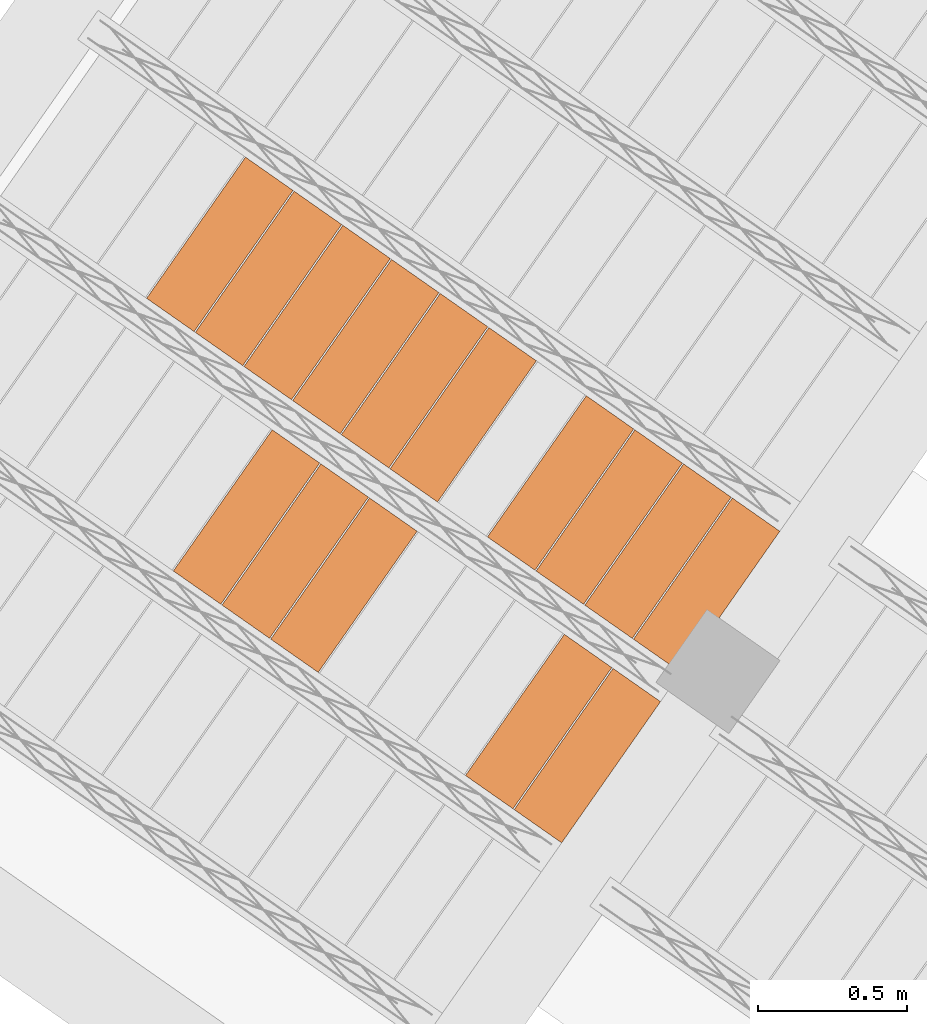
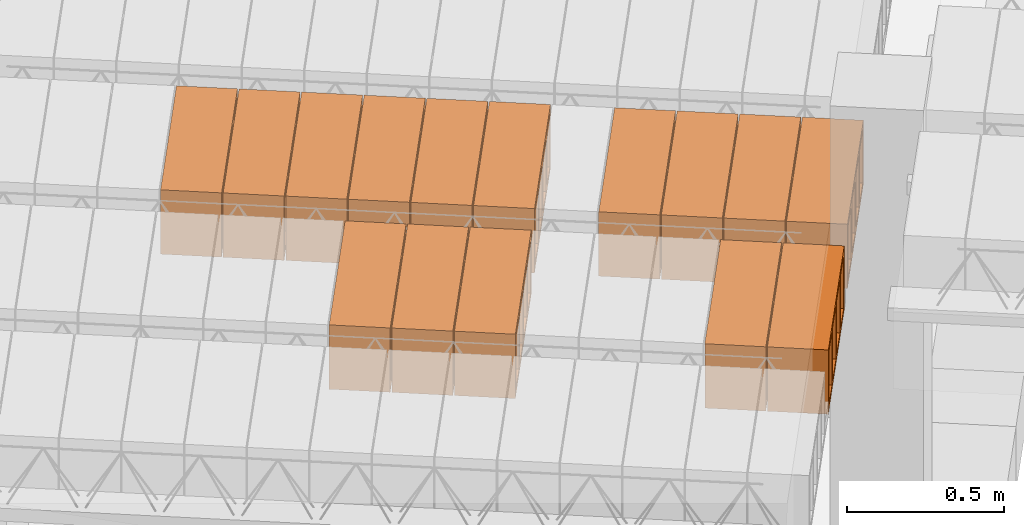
# One storey, part 58 of 80: 15 proxies.
"""IFC2X3 building model written with IfcOpenShell, lengths in metres."""

from ifc_helpers import new_model, entity, si_unit, converted_unit, derived_unit, direction, frame, origin, place, context, subcontext, project, spatial, polyline, outline, extrude, type_object, element, save


model = new_model("IFC2X3")

# Units and contexts
model_context = context("Model", 3, precision=1e-05, world=origin(), true_north=direction((6.123031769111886e-17, 1.0)))
body_context = subcontext(model_context, "Body", "Model", "MODEL_VIEW")
ifc_project = project(units=[si_unit("LENGTHUNIT", "METRE"), si_unit("AREAUNIT", "SQUARE_METRE"), si_unit("VOLUMEUNIT", "CUBIC_METRE"), converted_unit("PLANEANGLEUNIT", "DEGREE", entity("IfcPlaneAngleMeasure", 0.017453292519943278), si_unit("PLANEANGLEUNIT", "RADIAN"), dimensions=[0, 0, 0, 0, 0, 0, 0]), si_unit("MASSUNIT", "GRAM", prefix="KILO"), derived_unit("MASSDENSITYUNIT", [(si_unit("MASSUNIT", "GRAM", prefix="KILO"), 1), (si_unit("LENGTHUNIT", "METRE"), -3)]), derived_unit("IONCONCENTRATIONUNIT", [(si_unit("MASSUNIT", "GRAM", prefix="KILO"), 1), (si_unit("LENGTHUNIT", "METRE"), -3)]), derived_unit("MOMENTOFINERTIAUNIT", [(si_unit("LENGTHUNIT", "METRE"), 4)]), si_unit("TIMEUNIT", "SECOND"), si_unit("FREQUENCYUNIT", "HERTZ"), si_unit("THERMODYNAMICTEMPERATUREUNIT", "DEGREE_CELSIUS"), derived_unit("THERMALTRANSMITTANCEUNIT", [(si_unit("MASSUNIT", "GRAM", prefix="KILO"), 1), (si_unit("THERMODYNAMICTEMPERATUREUNIT", "KELVIN"), -1), (si_unit("TIMEUNIT", "SECOND"), -3)]), derived_unit("THERMALCONDUCTANCEUNIT", [(si_unit("MASSUNIT", "GRAM", prefix="KILO"), 1), (si_unit("THERMODYNAMICTEMPERATUREUNIT", "KELVIN"), -1), (si_unit("TIMEUNIT", "SECOND"), -3), (si_unit("LENGTHUNIT", "METRE"), 1)]), derived_unit("VOLUMETRICFLOWRATEUNIT", [(si_unit("LENGTHUNIT", "METRE", prefix="DECI"), 3), (si_unit("TIMEUNIT", "SECOND"), -1)]), derived_unit("MASSFLOWRATEUNIT", [(si_unit("MASSUNIT", "GRAM", prefix="KILO"), 1), (si_unit("TIMEUNIT", "SECOND"), -1)]), derived_unit("ROTATIONALFREQUENCYUNIT", [(si_unit("TIMEUNIT", "SECOND"), -1)]), si_unit("ELECTRICCURRENTUNIT", "AMPERE"), si_unit("ELECTRICVOLTAGEUNIT", "VOLT"), si_unit("POWERUNIT", "WATT"), si_unit("FORCEUNIT", "NEWTON", prefix="KILO"), si_unit("ILLUMINANCEUNIT", "LUX"), si_unit("LUMINOUSFLUXUNIT", "LUMEN"), si_unit("LUMINOUSINTENSITYUNIT", "CANDELA"), si_unit("ENERGYUNIT", "JOULE"), derived_unit("USERDEFINED", [(si_unit("MASSUNIT", "GRAM", prefix="KILO"), -1), (si_unit("LENGTHUNIT", "METRE"), -2), (si_unit("TIMEUNIT", "SECOND"), 3), (si_unit("LUMINOUSFLUXUNIT", "LUMEN"), 1)]), derived_unit("USERDEFINED", [(si_unit("MASSUNIT", "GRAM", prefix="KILO"), 1), (si_unit("TIMEUNIT", "SECOND"), -3), (si_unit("LENGTHUNIT", "METRE"), 3), (si_unit("ELECTRICCURRENTUNIT", "AMPERE"), -2)]), derived_unit("SOUNDPOWERUNIT", [(si_unit("MASSUNIT", "GRAM", prefix="KILO"), 1), (si_unit("TIMEUNIT", "SECOND"), -3), (si_unit("LENGTHUNIT", "METRE"), 2)]), derived_unit("SOUNDPRESSUREUNIT", [(si_unit("MASSUNIT", "GRAM", prefix="KILO"), 1), (si_unit("LENGTHUNIT", "METRE"), -1), (si_unit("TIMEUNIT", "SECOND"), -2)]), derived_unit("LINEARVELOCITYUNIT", [(si_unit("LENGTHUNIT", "METRE"), 1), (si_unit("TIMEUNIT", "SECOND"), -1)]), si_unit("PRESSUREUNIT", "PASCAL"), derived_unit("USERDEFINED", [(si_unit("MASSUNIT", "GRAM", prefix="KILO"), 1), (si_unit("LENGTHUNIT", "METRE"), -2), (si_unit("TIMEUNIT", "SECOND"), -2)]), derived_unit("LINEARFORCEUNIT", [(si_unit("MASSUNIT", "GRAM", prefix="KILO"), 1), (si_unit("TIMEUNIT", "SECOND"), -2)]), derived_unit("PLANARFORCEUNIT", [(si_unit("MASSUNIT", "GRAM", prefix="KILO"), 1), (si_unit("LENGTHUNIT", "METRE"), -1), (si_unit("TIMEUNIT", "SECOND"), -2)]), derived_unit("SPECIFICHEATCAPACITYUNIT", [(si_unit("THERMODYNAMICTEMPERATUREUNIT", "KELVIN"), -1), (si_unit("LENGTHUNIT", "METRE"), 2), (si_unit("TIMEUNIT", "SECOND"), -2)]), derived_unit("HEATFLUXDENSITYUNIT", [(si_unit("MASSUNIT", "GRAM", prefix="KILO"), 1), (si_unit("TIMEUNIT", "SECOND"), -3)]), derived_unit("HEATINGVALUEUNIT", [(si_unit("LENGTHUNIT", "METRE"), 2), (si_unit("TIMEUNIT", "SECOND"), -2)]), derived_unit("VAPORPERMEABILITYUNIT", [(si_unit("LENGTHUNIT", "METRE"), -1), (si_unit("TIMEUNIT", "SECOND"), 1)]), derived_unit("DYNAMICVISCOSITYUNIT", [(si_unit("MASSUNIT", "GRAM", prefix="KILO"), 1), (si_unit("TIMEUNIT", "SECOND"), -1), (si_unit("LENGTHUNIT", "METRE"), -1)]), derived_unit("THERMALEXPANSIONCOEFFICIENTUNIT", [(si_unit("THERMODYNAMICTEMPERATUREUNIT", "KELVIN"), -1)]), derived_unit("MODULUSOFELASTICITYUNIT", [(si_unit("MASSUNIT", "GRAM", prefix="KILO"), 1), (si_unit("LENGTHUNIT", "METRE"), -1), (si_unit("TIMEUNIT", "SECOND"), -2)]), derived_unit("ISOTHERMALMOISTURECAPACITYUNIT", [(si_unit("MASSUNIT", "GRAM", prefix="KILO"), -1), (si_unit("LENGTHUNIT", "METRE"), 3)]), derived_unit("MOISTUREDIFFUSIVITYUNIT", [(si_unit("TIMEUNIT", "SECOND"), -1), (si_unit("LENGTHUNIT", "METRE"), 2)]), derived_unit("MASSPERLENGTHUNIT", [(si_unit("MASSUNIT", "GRAM", prefix="KILO"), 1), (si_unit("LENGTHUNIT", "METRE"), -1)]), derived_unit("THERMALRESISTANCEUNIT", [(si_unit("MASSUNIT", "GRAM", prefix="KILO"), -1), (si_unit("TIMEUNIT", "SECOND"), 3), (si_unit("THERMODYNAMICTEMPERATUREUNIT", "KELVIN"), 1)]), derived_unit("ACCELERATIONUNIT", [(si_unit("LENGTHUNIT", "METRE"), 1), (si_unit("TIMEUNIT", "SECOND"), -2)]), derived_unit("ANGULARVELOCITYUNIT", [(si_unit("TIMEUNIT", "SECOND"), -1), (si_unit("PLANEANGLEUNIT", "RADIAN"), 1)]), derived_unit("LINEARSTIFFNESSUNIT", [(si_unit("MASSUNIT", "GRAM", prefix="KILO"), 1), (si_unit("TIMEUNIT", "SECOND"), -2)]), derived_unit("WARPINGCONSTANTUNIT", [(si_unit("LENGTHUNIT", "METRE"), 6)]), derived_unit("LINEARMOMENTUNIT", [(si_unit("MASSUNIT", "GRAM", prefix="KILO"), 1), (si_unit("LENGTHUNIT", "METRE"), 1), (si_unit("TIMEUNIT", "SECOND"), -2)]), derived_unit("TORQUEUNIT", [(si_unit("MASSUNIT", "GRAM", prefix="KILO"), 1), (si_unit("LENGTHUNIT", "METRE"), 2), (si_unit("TIMEUNIT", "SECOND"), -2)])], contexts=[model_context])

# Site, building, storey
site_placement = place(None, origin())
site = spatial("IfcSite", under=ifc_project, at=site_placement, Name="Default", CompositionType="ELEMENT")
building_placement = place(site_placement, origin())
building = spatial("IfcBuilding", under=site, at=building_placement, CompositionType="ELEMENT")
storey_placement = place(building_placement, frame((0.0, 0.0, 95.94)))
storey = spatial("IfcBuildingStorey", under=building, at=storey_placement, Name="PB", CompositionType="ELEMENT", Elevation=95.94)

# Proxies
building_element_proxy_type_1 = type_object("IfcBuildingElementProxyType", Name="Bovedilla 2-1 (Paño 2)", PredefinedType="USERDEFINED")
proxy_1_placement = place(storey_placement, origin())
element("IfcBuildingElementProxy", 1, at=proxy_1_placement, inside=storey, type_object=building_element_proxy_type_1, Name="Bovedilla 2-1 (Paño 2)", ObjectType="FORM", context=body_context, shape_type="SweptSolid", body=[
    extrude(outline(polyline([(-0.29, -0.12500000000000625), (0.29, -0.12500000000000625), (0.29, 0.12500000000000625), (-0.29, 0.12500000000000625), (-0.29, -0.12500000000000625)]), holes=[polyline([(0.27, -0.10499999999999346), (0.15499999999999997, -0.10499999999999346), (0.15499999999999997, 0.10499999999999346), (0.27, 0.10499999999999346), (0.27, 0.042499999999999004), (0.27, -0.10499999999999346)]), polyline([(0.009999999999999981, -0.10499999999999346), (0.009999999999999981, 0.10499999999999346), (0.13500000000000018, 0.10499999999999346), (0.13500000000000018, -0.10499999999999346), (0.009999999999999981, -0.10499999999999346)]), polyline([(-0.13500000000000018, 0.10499999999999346), (-0.009999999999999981, 0.10499999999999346), (-0.009999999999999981, -0.10499999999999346), (-0.13500000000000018, -0.10499999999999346), (-0.13500000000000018, 0.10499999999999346)]), polyline([(-0.27, -0.10499999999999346), (-0.27, 0.042499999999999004), (-0.27, 0.10499999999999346), (-0.15499999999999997, 0.10499999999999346), (-0.15499999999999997, -0.10499999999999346), (-0.27, -0.10499999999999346)])]), frame((1.625330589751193, 2.036289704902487, 2.945000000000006), z_axis=(0.819152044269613, -0.5735764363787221, 0.0), x_axis=(-0.5735764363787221, -0.819152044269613, 0.0)), (0.0, 0.0, 1.0), 0.19499999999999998),
])
building_element_proxy_type_2 = type_object("IfcBuildingElementProxyType", Name="Bovedilla 2-2 (Paño 2)", PredefinedType="USERDEFINED")
proxy_2_placement = place(storey_placement, origin())
element("IfcBuildingElementProxy", 2, at=proxy_2_placement, inside=storey, type_object=building_element_proxy_type_2, Name="Bovedilla 2-2 (Paño 2)", ObjectType="FORM", context=body_context, shape_type="SweptSolid", body=[
    extrude(outline(polyline([(-0.29, -0.12500000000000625), (0.29, -0.12500000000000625), (0.29, 0.12500000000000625), (-0.29, 0.12500000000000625), (-0.29, -0.12500000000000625)]), holes=[polyline([(0.27, -0.10499999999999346), (0.15499999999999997, -0.10499999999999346), (0.15499999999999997, 0.10499999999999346), (0.27, 0.10499999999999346), (0.27, 0.042499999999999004), (0.27, -0.10499999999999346)]), polyline([(0.009999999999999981, -0.10499999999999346), (0.009999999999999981, 0.10499999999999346), (0.13500000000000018, 0.10499999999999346), (0.13500000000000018, -0.10499999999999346), (0.009999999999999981, -0.10499999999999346)]), polyline([(-0.13500000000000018, 0.10499999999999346), (-0.009999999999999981, 0.10499999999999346), (-0.009999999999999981, -0.10499999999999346), (-0.13500000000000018, -0.10499999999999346), (-0.13500000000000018, 0.10499999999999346)]), polyline([(-0.27, -0.10499999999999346), (-0.27, 0.042499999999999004), (-0.27, 0.10499999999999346), (-0.15499999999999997, 0.10499999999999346), (-0.15499999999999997, -0.10499999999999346), (-0.27, -0.10499999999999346)])]), frame((1.4615001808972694, 2.1510049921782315, 2.945000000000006), z_axis=(0.819152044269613, -0.5735764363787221, 0.0), x_axis=(-0.5735764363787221, -0.819152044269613, 0.0)), (0.0, 0.0, 1.0), 0.19499999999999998),
])
building_element_proxy_type_3 = type_object("IfcBuildingElementProxyType", Name="Bovedilla 2-6 (Paño 2)", PredefinedType="USERDEFINED")
proxy_3_placement = place(storey_placement, origin())
element("IfcBuildingElementProxy", 3, at=proxy_3_placement, inside=storey, type_object=building_element_proxy_type_3, Name="Bovedilla 2-6 (Paño 2)", ObjectType="FORM", context=body_context, shape_type="SweptSolid", body=[
    extrude(outline(polyline([(-0.29000000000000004, -0.12500000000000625), (0.29000000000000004, -0.12500000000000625), (0.29000000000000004, 0.12500000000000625), (-0.29000000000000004, 0.12500000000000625), (-0.29000000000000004, -0.12500000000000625)]), holes=[polyline([(0.27000000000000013, -0.10499999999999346), (0.15500000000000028, -0.10499999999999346), (0.15500000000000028, 0.10499999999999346), (0.27000000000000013, 0.10499999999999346), (0.27000000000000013, 0.042499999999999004), (0.27000000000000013, -0.10499999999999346)]), polyline([(0.00999999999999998, -0.10499999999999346), (0.00999999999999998, 0.10499999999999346), (0.1349999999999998, 0.10499999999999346), (0.1349999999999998, -0.10499999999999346), (0.00999999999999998, -0.10499999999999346)]), polyline([(-0.1349999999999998, 0.10499999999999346), (-0.00999999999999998, 0.10499999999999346), (-0.00999999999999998, -0.10499999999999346), (-0.1349999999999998, -0.10499999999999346), (-0.1349999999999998, 0.10499999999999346)]), polyline([(-0.27000000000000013, -0.10499999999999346), (-0.27000000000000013, 0.042499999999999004), (-0.27000000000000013, 0.10499999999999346), (-0.15500000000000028, 0.10499999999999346), (-0.15500000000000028, -0.10499999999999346), (-0.27000000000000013, -0.10499999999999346)])]), frame((0.806178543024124, 2.609866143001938, 2.945000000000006), z_axis=(0.8191520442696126, -0.5735764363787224, 0.0), x_axis=(-0.5735764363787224, -0.8191520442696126, 0.0)), (0.0, 0.0, 1.0), 0.19500000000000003),
])
building_element_proxy_type_4 = type_object("IfcBuildingElementProxyType", Name="Bovedilla 2-7 (Paño 2)", PredefinedType="USERDEFINED")
proxy_4_placement = place(storey_placement, origin())
element("IfcBuildingElementProxy", 4, at=proxy_4_placement, inside=storey, type_object=building_element_proxy_type_4, Name="Bovedilla 2-7 (Paño 2)", ObjectType="FORM", context=body_context, shape_type="SweptSolid", body=[
    extrude(outline(polyline([(-0.29000000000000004, -0.12500000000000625), (0.29000000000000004, -0.12500000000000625), (0.29000000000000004, 0.12500000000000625), (-0.29000000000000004, 0.12500000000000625), (-0.29000000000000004, -0.12500000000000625)]), holes=[polyline([(0.27000000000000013, -0.10499999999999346), (0.15500000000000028, -0.10499999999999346), (0.15500000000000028, 0.10499999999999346), (0.27000000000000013, 0.10499999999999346), (0.27000000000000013, 0.042499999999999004), (0.27000000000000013, -0.10499999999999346)]), polyline([(0.00999999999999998, -0.10499999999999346), (0.00999999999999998, 0.10499999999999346), (0.1349999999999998, 0.10499999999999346), (0.1349999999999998, -0.10499999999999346), (0.00999999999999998, -0.10499999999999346)]), polyline([(-0.1349999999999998, 0.10499999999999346), (-0.00999999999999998, 0.10499999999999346), (-0.00999999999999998, -0.10499999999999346), (-0.1349999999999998, -0.10499999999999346), (-0.1349999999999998, 0.10499999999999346)]), polyline([(-0.27000000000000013, -0.10499999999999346), (-0.27000000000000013, 0.042499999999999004), (-0.27000000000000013, 0.10499999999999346), (-0.15500000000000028, 0.10499999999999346), (-0.15500000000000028, -0.10499999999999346), (-0.27000000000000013, -0.10499999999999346)])]), frame((0.6423481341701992, 2.7245814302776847, 2.945000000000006), z_axis=(0.8191520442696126, -0.5735764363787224, 0.0), x_axis=(-0.5735764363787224, -0.8191520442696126, 0.0)), (0.0, 0.0, 1.0), 0.19500000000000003),
])
building_element_proxy_type_5 = type_object("IfcBuildingElementProxyType", Name="Bovedilla 2-8 (Paño 2)", PredefinedType="USERDEFINED")
proxy_5_placement = place(storey_placement, origin())
element("IfcBuildingElementProxy", 5, at=proxy_5_placement, inside=storey, type_object=building_element_proxy_type_5, Name="Bovedilla 2-8 (Paño 2)", ObjectType="FORM", context=body_context, shape_type="SweptSolid", body=[
    extrude(outline(polyline([(-0.29000000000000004, -0.12500000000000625), (0.29000000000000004, -0.12500000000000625), (0.29000000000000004, 0.12500000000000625), (-0.29000000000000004, 0.12500000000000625), (-0.29000000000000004, -0.12500000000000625)]), holes=[polyline([(0.27000000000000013, -0.10499999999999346), (0.15500000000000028, -0.10499999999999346), (0.15500000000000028, 0.10499999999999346), (0.27000000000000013, 0.10499999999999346), (0.27000000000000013, 0.042499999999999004), (0.27000000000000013, -0.10499999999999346)]), polyline([(0.009999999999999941, -0.10499999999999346), (0.009999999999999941, 0.10499999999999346), (0.1349999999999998, 0.10499999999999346), (0.1349999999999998, -0.10499999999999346), (0.009999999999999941, -0.10499999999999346)]), polyline([(-0.1349999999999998, 0.10499999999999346), (-0.009999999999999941, 0.10499999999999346), (-0.009999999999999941, -0.10499999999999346), (-0.1349999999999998, -0.10499999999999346), (-0.1349999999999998, 0.10499999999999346)]), polyline([(-0.27000000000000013, -0.10499999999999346), (-0.27000000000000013, 0.042499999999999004), (-0.27000000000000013, 0.10499999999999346), (-0.15500000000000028, 0.10499999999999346), (-0.15500000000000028, -0.10499999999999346), (-0.27000000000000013, -0.10499999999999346)])]), frame((0.47851772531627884, 2.8392967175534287, 2.945000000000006), z_axis=(0.8191520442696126, -0.5735764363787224, 0.0), x_axis=(-0.5735764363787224, -0.8191520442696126, 0.0)), (0.0, 0.0, 1.0), 0.19500000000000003),
])
building_element_proxy_type_6 = type_object("IfcBuildingElementProxyType", Name="Bovedilla 3-1 (Paño 2)", PredefinedType="USERDEFINED")
proxy_6_placement = place(storey_placement, origin())
element("IfcBuildingElementProxy", 6, at=proxy_6_placement, inside=storey, type_object=building_element_proxy_type_6, Name="Bovedilla 3-1 (Paño 2)", ObjectType="FORM", context=body_context, shape_type="SweptSolid", body=[
    extrude(outline(polyline([(-0.29, -0.12500000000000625), (0.29, -0.12500000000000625), (0.29, 0.12500000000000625), (-0.29, 0.12500000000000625), (-0.29, -0.12500000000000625)]), holes=[polyline([(0.2700000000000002, -0.10499999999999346), (0.1550000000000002, -0.10499999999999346), (0.1550000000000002, 0.10499999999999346), (0.2700000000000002, 0.10499999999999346), (0.2700000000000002, 0.042499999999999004), (0.2700000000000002, -0.10499999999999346)]), polyline([(0.009999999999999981, -0.10499999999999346), (0.009999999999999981, 0.10499999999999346), (0.13499999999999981, 0.10499999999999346), (0.13499999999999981, -0.10499999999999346), (0.009999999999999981, -0.10499999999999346)]), polyline([(-0.13499999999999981, 0.10499999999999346), (-0.009999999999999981, 0.10499999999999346), (-0.009999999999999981, -0.10499999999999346), (-0.13499999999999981, -0.10499999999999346), (-0.13499999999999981, 0.10499999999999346)]), polyline([(-0.2700000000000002, -0.10499999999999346), (-0.2700000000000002, 0.042499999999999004), (-0.2700000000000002, 0.10499999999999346), (-0.1550000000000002, 0.10499999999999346), (-0.1550000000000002, -0.10499999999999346), (-0.2700000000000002, -0.10499999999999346)])]), frame((2.0268340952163, 2.609696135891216, 2.945000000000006), z_axis=(0.819152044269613, -0.5735764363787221, 0.0), x_axis=(-0.5735764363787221, -0.819152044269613, 0.0)), (0.0, 0.0, 1.0), 0.19499999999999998),
])
building_element_proxy_type_7 = type_object("IfcBuildingElementProxyType", Name="Bovedilla 3-2 (Paño 2)", PredefinedType="USERDEFINED")
proxy_7_placement = place(storey_placement, origin())
element("IfcBuildingElementProxy", 7, at=proxy_7_placement, inside=storey, type_object=building_element_proxy_type_7, Name="Bovedilla 3-2 (Paño 2)", ObjectType="FORM", context=body_context, shape_type="SweptSolid", body=[
    extrude(outline(polyline([(-0.29, -0.12500000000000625), (0.29, -0.12500000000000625), (0.29, 0.12500000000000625), (-0.29, 0.12500000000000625), (-0.29, -0.12500000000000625)]), holes=[polyline([(0.2700000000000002, -0.10499999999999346), (0.1550000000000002, -0.10499999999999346), (0.1550000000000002, 0.10499999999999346), (0.2700000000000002, 0.10499999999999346), (0.2700000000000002, 0.042499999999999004), (0.2700000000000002, -0.10499999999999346)]), polyline([(0.009999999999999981, -0.10499999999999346), (0.009999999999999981, 0.10499999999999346), (0.13499999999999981, 0.10499999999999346), (0.13499999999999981, -0.10499999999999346), (0.009999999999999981, -0.10499999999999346)]), polyline([(-0.13499999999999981, 0.10499999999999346), (-0.009999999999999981, 0.10499999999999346), (-0.009999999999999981, -0.10499999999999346), (-0.13499999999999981, -0.10499999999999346), (-0.13499999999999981, 0.10499999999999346)]), polyline([(-0.2700000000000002, -0.10499999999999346), (-0.2700000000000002, 0.042499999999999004), (-0.2700000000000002, 0.10499999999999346), (-0.1550000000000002, 0.10499999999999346), (-0.1550000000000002, -0.10499999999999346), (-0.2700000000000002, -0.10499999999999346)])]), frame((1.8630036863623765, 2.7244114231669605, 2.945000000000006), z_axis=(0.819152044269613, -0.5735764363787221, 0.0), x_axis=(-0.5735764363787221, -0.819152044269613, 0.0)), (0.0, 0.0, 1.0), 0.19499999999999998),
])
building_element_proxy_type_8 = type_object("IfcBuildingElementProxyType", Name="Bovedilla 3-3 (Paño 2)", PredefinedType="USERDEFINED")
proxy_8_placement = place(storey_placement, origin())
element("IfcBuildingElementProxy", 8, at=proxy_8_placement, inside=storey, type_object=building_element_proxy_type_8, Name="Bovedilla 3-3 (Paño 2)", ObjectType="FORM", context=body_context, shape_type="SweptSolid", body=[
    extrude(outline(polyline([(-0.29, -0.12500000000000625), (0.29, -0.12500000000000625), (0.29, 0.12500000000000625), (-0.29, 0.12500000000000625), (-0.29, -0.12500000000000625)]), holes=[polyline([(0.2700000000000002, -0.10499999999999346), (0.1550000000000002, -0.10499999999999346), (0.1550000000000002, 0.10499999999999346), (0.2700000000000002, 0.10499999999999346), (0.2700000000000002, 0.042499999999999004), (0.2700000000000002, -0.10499999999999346)]), polyline([(0.009999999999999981, -0.10499999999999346), (0.009999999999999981, 0.10499999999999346), (0.13499999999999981, 0.10499999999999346), (0.13499999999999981, -0.10499999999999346), (0.009999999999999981, -0.10499999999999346)]), polyline([(-0.13499999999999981, 0.10499999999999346), (-0.009999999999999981, 0.10499999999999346), (-0.009999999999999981, -0.10499999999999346), (-0.13499999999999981, -0.10499999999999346), (-0.13499999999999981, 0.10499999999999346)]), polyline([(-0.2700000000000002, -0.10499999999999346), (-0.2700000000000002, 0.042499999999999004), (-0.2700000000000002, 0.10499999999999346), (-0.1550000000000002, 0.10499999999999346), (-0.1550000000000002, -0.10499999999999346), (-0.2700000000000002, -0.10499999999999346)])]), frame((1.6991732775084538, 2.839126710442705, 2.945000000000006), z_axis=(0.819152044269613, -0.5735764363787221, 0.0), x_axis=(-0.5735764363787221, -0.819152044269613, 0.0)), (0.0, 0.0, 1.0), 0.19499999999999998),
])
building_element_proxy_type_9 = type_object("IfcBuildingElementProxyType", Name="Bovedilla 3-4 (Paño 2)", PredefinedType="USERDEFINED")
proxy_9_placement = place(storey_placement, origin())
element("IfcBuildingElementProxy", 9, at=proxy_9_placement, inside=storey, type_object=building_element_proxy_type_9, Name="Bovedilla 3-4 (Paño 2)", ObjectType="FORM", context=body_context, shape_type="SweptSolid", body=[
    extrude(outline(polyline([(-0.29, -0.12500000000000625), (0.29, -0.12500000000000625), (0.29, 0.12500000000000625), (-0.29, 0.12500000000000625), (-0.29, -0.12500000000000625)]), holes=[polyline([(0.2700000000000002, -0.10499999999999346), (0.1550000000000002, -0.10499999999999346), (0.1550000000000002, 0.10499999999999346), (0.2700000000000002, 0.10499999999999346), (0.2700000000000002, 0.042499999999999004), (0.2700000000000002, -0.10499999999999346)]), polyline([(0.009999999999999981, -0.10499999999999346), (0.009999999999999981, 0.10499999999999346), (0.13499999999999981, 0.10499999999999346), (0.13499999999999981, -0.10499999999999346), (0.009999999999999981, -0.10499999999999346)]), polyline([(-0.13499999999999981, 0.10499999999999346), (-0.009999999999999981, 0.10499999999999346), (-0.009999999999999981, -0.10499999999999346), (-0.13499999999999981, -0.10499999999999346), (-0.13499999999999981, 0.10499999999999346)]), polyline([(-0.2700000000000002, -0.10499999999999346), (-0.2700000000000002, 0.042499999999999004), (-0.2700000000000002, 0.10499999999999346), (-0.1550000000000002, 0.10499999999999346), (-0.1550000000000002, -0.10499999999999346), (-0.2700000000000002, -0.10499999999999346)])]), frame((1.5353428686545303, 2.953841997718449, 2.945000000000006), z_axis=(0.819152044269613, -0.5735764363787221, 0.0), x_axis=(-0.5735764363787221, -0.819152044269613, 0.0)), (0.0, 0.0, 1.0), 0.19499999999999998),
])
building_element_proxy_type_10 = type_object("IfcBuildingElementProxyType", Name="Bovedilla 3-6 (Paño 2)", PredefinedType="USERDEFINED")
proxy_10_placement = place(storey_placement, origin())
element("IfcBuildingElementProxy", 10, at=proxy_10_placement, inside=storey, type_object=building_element_proxy_type_10, Name="Bovedilla 3-6 (Paño 2)", ObjectType="FORM", context=body_context, shape_type="SweptSolid", body=[
    extrude(outline(polyline([(-0.29, -0.12500000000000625), (0.2900000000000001, -0.12500000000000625), (0.2900000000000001, 0.12500000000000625), (-0.29, 0.12500000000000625), (-0.29, -0.12500000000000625)]), holes=[polyline([(0.2700000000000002, -0.10499999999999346), (0.1550000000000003, -0.10499999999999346), (0.1550000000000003, 0.10499999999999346), (0.2700000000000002, 0.10499999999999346), (0.2700000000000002, 0.042499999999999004), (0.2700000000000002, -0.10499999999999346)]), polyline([(0.009999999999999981, -0.10499999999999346), (0.009999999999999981, 0.10499999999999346), (0.13499999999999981, 0.10499999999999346), (0.13499999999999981, -0.10499999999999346), (0.009999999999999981, -0.10499999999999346)]), polyline([(-0.13499999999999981, 0.10499999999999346), (-0.009999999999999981, 0.10499999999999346), (-0.009999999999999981, -0.10499999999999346), (-0.13499999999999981, -0.10499999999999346), (-0.13499999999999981, 0.10499999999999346)]), polyline([(-0.2700000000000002, -0.10499999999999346), (-0.2700000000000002, 0.042499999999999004), (-0.2700000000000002, 0.10499999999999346), (-0.1550000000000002, 0.10499999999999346), (-0.1550000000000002, -0.10499999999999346), (-0.2700000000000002, -0.10499999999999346)])]), frame((1.207682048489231, 3.1832725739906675, 2.945000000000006), z_axis=(0.8191520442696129, -0.5735764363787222, 0.0), x_axis=(-0.5735764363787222, -0.8191520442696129, 0.0)), (0.0, 0.0, 1.0), 0.19499999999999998),
])
building_element_proxy_type_11 = type_object("IfcBuildingElementProxyType", Name="Bovedilla 3-7 (Paño 2)", PredefinedType="USERDEFINED")
proxy_11_placement = place(storey_placement, origin())
element("IfcBuildingElementProxy", 11, at=proxy_11_placement, inside=storey, type_object=building_element_proxy_type_11, Name="Bovedilla 3-7 (Paño 2)", ObjectType="FORM", context=body_context, shape_type="SweptSolid", body=[
    extrude(outline(polyline([(-0.29000000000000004, -0.12500000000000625), (0.29000000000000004, -0.12500000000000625), (0.29000000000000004, 0.12500000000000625), (-0.29000000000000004, 0.12500000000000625), (-0.29000000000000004, -0.12500000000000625)]), holes=[polyline([(0.27000000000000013, -0.10499999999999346), (0.15500000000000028, -0.10499999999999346), (0.15500000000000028, 0.10499999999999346), (0.27000000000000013, 0.10499999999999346), (0.27000000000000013, 0.042499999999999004), (0.27000000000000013, -0.10499999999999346)]), polyline([(0.00999999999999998, -0.10499999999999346), (0.00999999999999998, 0.10499999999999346), (0.1349999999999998, 0.10499999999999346), (0.1349999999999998, -0.10499999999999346), (0.00999999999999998, -0.10499999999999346)]), polyline([(-0.1349999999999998, 0.10499999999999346), (-0.00999999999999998, 0.10499999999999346), (-0.00999999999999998, -0.10499999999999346), (-0.1349999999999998, -0.10499999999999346), (-0.1349999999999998, 0.10499999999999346)]), polyline([(-0.27000000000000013, -0.10499999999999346), (-0.27000000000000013, 0.042499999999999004), (-0.27000000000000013, 0.10499999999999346), (-0.15500000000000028, 0.10499999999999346), (-0.15500000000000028, -0.10499999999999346), (-0.27000000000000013, -0.10499999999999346)])]), frame((1.0438516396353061, 3.2979878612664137, 2.945000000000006), z_axis=(0.8191520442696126, -0.5735764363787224, 0.0), x_axis=(-0.5735764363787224, -0.8191520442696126, 0.0)), (0.0, 0.0, 1.0), 0.19500000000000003),
])
building_element_proxy_type_12 = type_object("IfcBuildingElementProxyType", Name="Bovedilla 3-8 (Paño 2)", PredefinedType="USERDEFINED")
proxy_12_placement = place(storey_placement, origin())
element("IfcBuildingElementProxy", 12, at=proxy_12_placement, inside=storey, type_object=building_element_proxy_type_12, Name="Bovedilla 3-8 (Paño 2)", ObjectType="FORM", context=body_context, shape_type="SweptSolid", body=[
    extrude(outline(polyline([(-0.29000000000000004, -0.12500000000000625), (0.29000000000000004, -0.12500000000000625), (0.29000000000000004, 0.12500000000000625), (-0.29000000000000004, 0.12500000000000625), (-0.29000000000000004, -0.12500000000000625)]), holes=[polyline([(0.27000000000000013, -0.10499999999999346), (0.15500000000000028, -0.10499999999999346), (0.15500000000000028, 0.10499999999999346), (0.27000000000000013, 0.10499999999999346), (0.27000000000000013, 0.042499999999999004), (0.27000000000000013, -0.10499999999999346)]), polyline([(0.00999999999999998, -0.10499999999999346), (0.00999999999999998, 0.10499999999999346), (0.1349999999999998, 0.10499999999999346), (0.1349999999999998, -0.10499999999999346), (0.00999999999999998, -0.10499999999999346)]), polyline([(-0.1349999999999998, 0.10499999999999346), (-0.00999999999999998, 0.10499999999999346), (-0.00999999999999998, -0.10499999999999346), (-0.1349999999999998, -0.10499999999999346), (-0.1349999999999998, 0.10499999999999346)]), polyline([(-0.27000000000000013, -0.10499999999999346), (-0.27000000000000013, 0.042499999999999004), (-0.27000000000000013, 0.10499999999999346), (-0.15500000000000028, 0.10499999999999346), (-0.15500000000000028, -0.10499999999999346), (-0.27000000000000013, -0.10499999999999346)])]), frame((0.8800212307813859, 3.412703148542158, 2.945000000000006), z_axis=(0.8191520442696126, -0.5735764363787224, 0.0), x_axis=(-0.5735764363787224, -0.8191520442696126, 0.0)), (0.0, 0.0, 1.0), 0.19500000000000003),
])
building_element_proxy_type_13 = type_object("IfcBuildingElementProxyType", Name="Bovedilla 3-9 (Paño 2)", PredefinedType="USERDEFINED")
proxy_13_placement = place(storey_placement, origin())
element("IfcBuildingElementProxy", 13, at=proxy_13_placement, inside=storey, type_object=building_element_proxy_type_13, Name="Bovedilla 3-9 (Paño 2)", ObjectType="FORM", context=body_context, shape_type="SweptSolid", body=[
    extrude(outline(polyline([(-0.29000000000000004, -0.12500000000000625), (0.29000000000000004, -0.12500000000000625), (0.29000000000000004, 0.12500000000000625), (-0.29000000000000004, 0.12500000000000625), (-0.29000000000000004, -0.12500000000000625)]), holes=[polyline([(0.27000000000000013, -0.10499999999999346), (0.15500000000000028, -0.10499999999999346), (0.15500000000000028, 0.10499999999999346), (0.27000000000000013, 0.10499999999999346), (0.27000000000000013, 0.042499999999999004), (0.27000000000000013, -0.10499999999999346)]), polyline([(0.00999999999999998, -0.10499999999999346), (0.00999999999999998, 0.10499999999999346), (0.1349999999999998, 0.10499999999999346), (0.1349999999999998, -0.10499999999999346), (0.00999999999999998, -0.10499999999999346)]), polyline([(-0.1349999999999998, 0.10499999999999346), (-0.00999999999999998, 0.10499999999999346), (-0.00999999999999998, -0.10499999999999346), (-0.1349999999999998, -0.10499999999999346), (-0.1349999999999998, 0.10499999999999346)]), polyline([(-0.27000000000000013, -0.10499999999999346), (-0.27000000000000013, 0.042499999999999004), (-0.27000000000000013, 0.10499999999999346), (-0.15500000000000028, 0.10499999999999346), (-0.15500000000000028, -0.10499999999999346), (-0.27000000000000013, -0.10499999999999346)])]), frame((0.7161908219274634, 3.5274184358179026, 2.945000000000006), z_axis=(0.8191520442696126, -0.5735764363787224, 0.0), x_axis=(-0.5735764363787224, -0.8191520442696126, 0.0)), (0.0, 0.0, 1.0), 0.19500000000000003),
])
building_element_proxy_type_14 = type_object("IfcBuildingElementProxyType", Name="Bovedilla 3-10 (Paño 2)", PredefinedType="USERDEFINED")
proxy_14_placement = place(storey_placement, origin())
element("IfcBuildingElementProxy", 14, at=proxy_14_placement, inside=storey, type_object=building_element_proxy_type_14, Name="Bovedilla 3-10 (Paño 2)", ObjectType="FORM", context=body_context, shape_type="SweptSolid", body=[
    extrude(outline(polyline([(-0.29000000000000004, -0.12500000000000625), (0.29000000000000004, -0.12500000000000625), (0.29000000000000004, 0.12500000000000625), (-0.29000000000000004, 0.12500000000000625), (-0.29000000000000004, -0.12500000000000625)]), holes=[polyline([(0.27000000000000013, -0.10499999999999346), (0.15500000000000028, -0.10499999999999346), (0.15500000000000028, 0.10499999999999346), (0.27000000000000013, 0.10499999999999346), (0.27000000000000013, 0.042499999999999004), (0.27000000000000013, -0.10499999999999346)]), polyline([(0.009999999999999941, -0.10499999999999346), (0.009999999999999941, 0.10499999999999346), (0.1349999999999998, 0.10499999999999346), (0.1349999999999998, -0.10499999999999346), (0.009999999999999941, -0.10499999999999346)]), polyline([(-0.1349999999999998, 0.10499999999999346), (-0.009999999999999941, 0.10499999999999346), (-0.009999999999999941, -0.10499999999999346), (-0.1349999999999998, -0.10499999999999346), (-0.1349999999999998, 0.10499999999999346)]), polyline([(-0.27000000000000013, -0.10499999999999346), (-0.27000000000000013, 0.042499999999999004), (-0.27000000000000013, 0.10499999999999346), (-0.15500000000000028, 0.10499999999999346), (-0.15500000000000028, -0.10499999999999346), (-0.27000000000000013, -0.10499999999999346)])]), frame((0.5523604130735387, 3.6421337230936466, 2.945000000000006), z_axis=(0.8191520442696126, -0.5735764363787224, 0.0), x_axis=(-0.5735764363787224, -0.8191520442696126, 0.0)), (0.0, 0.0, 1.0), 0.19500000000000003),
])
building_element_proxy_type_15 = type_object("IfcBuildingElementProxyType", Name="Bovedilla 3-11 (Paño 2)", PredefinedType="USERDEFINED")
proxy_15_placement = place(storey_placement, origin())
element("IfcBuildingElementProxy", 15, at=proxy_15_placement, inside=storey, type_object=building_element_proxy_type_15, Name="Bovedilla 3-11 (Paño 2)", ObjectType="FORM", context=body_context, shape_type="SweptSolid", body=[
    extrude(outline(polyline([(-0.29000000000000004, -0.12500000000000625), (0.29000000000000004, -0.12500000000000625), (0.29000000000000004, 0.12500000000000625), (-0.29000000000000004, 0.12500000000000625), (-0.29000000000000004, -0.12500000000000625)]), holes=[polyline([(0.27000000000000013, -0.10499999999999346), (0.15500000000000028, -0.10499999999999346), (0.15500000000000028, 0.10499999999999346), (0.27000000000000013, 0.10499999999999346), (0.27000000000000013, 0.042499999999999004), (0.27000000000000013, -0.10499999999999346)]), polyline([(0.009999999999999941, -0.10499999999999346), (0.009999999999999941, 0.10499999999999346), (0.1349999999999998, 0.10499999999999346), (0.1349999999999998, -0.10499999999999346), (0.009999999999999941, -0.10499999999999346)]), polyline([(-0.1349999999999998, 0.10499999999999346), (-0.009999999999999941, 0.10499999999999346), (-0.009999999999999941, -0.10499999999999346), (-0.1349999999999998, -0.10499999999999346), (-0.1349999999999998, 0.10499999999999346)]), polyline([(-0.27000000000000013, -0.10499999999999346), (-0.27000000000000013, 0.042499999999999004), (-0.27000000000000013, 0.10499999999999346), (-0.15500000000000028, 0.10499999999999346), (-0.15500000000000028, -0.10499999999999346), (-0.27000000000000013, -0.10499999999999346)])]), frame((0.38853000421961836, 3.756849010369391, 2.945000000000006), z_axis=(0.8191520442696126, -0.5735764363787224, 0.0), x_axis=(-0.5735764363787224, -0.8191520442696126, 0.0)), (0.0, 0.0, 1.0), 0.19500000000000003),
])

save(model, "model.ifc")
